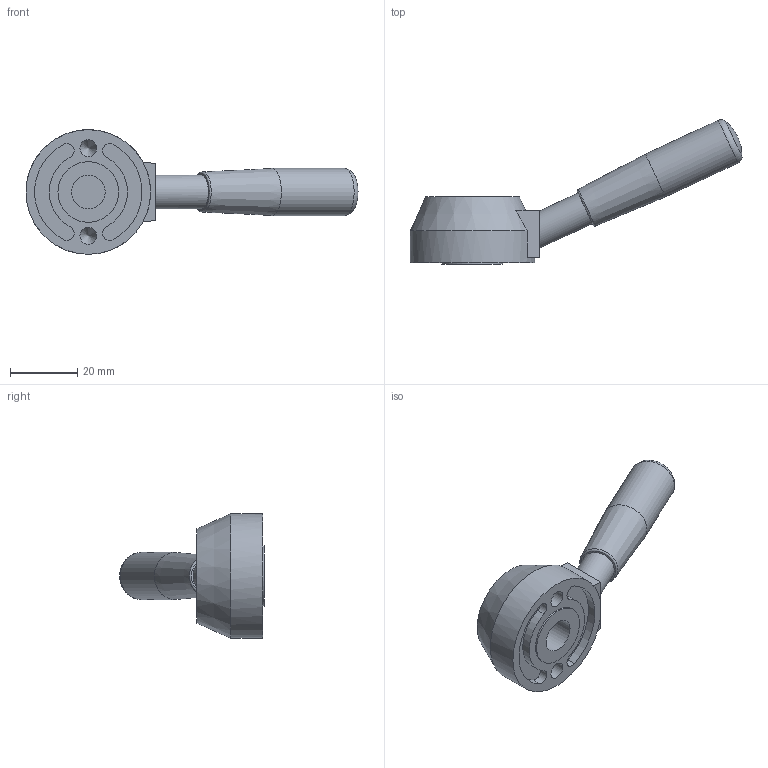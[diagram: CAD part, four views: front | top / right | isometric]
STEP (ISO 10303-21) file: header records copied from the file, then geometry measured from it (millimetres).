
FILE_DESCRIPTION( ( 'STEP AP203' ), '1' );
FILE_NAME( 'C:/Temp/Ganter_Step_05_03_2020/data/2_1/gn_512/gn_512_b/Control lever GN 512-37-B10.stp', '2020-03-05T11:51:35', ( 'License CC BY-ND 4.0' ), ( 'CADENAS' ), ' ', 'PARTsolutions', ' ' );
FILE_SCHEMA( ( 'CONFIG_CONTROL_DESIGN' ) );
Length unit declared in the file: millimetre
Products named in the file (1): _Control lever GN 512-37-B10
Bounding box: 98.59 x 42.95 x 37 mm (x, y, z)
Volume: 24819.7 mm3; surface area: 8140.4 mm2
Topology: 1 solids, 1 shells, 36 faces, 80 edges, 52 vertices
Faces by surface type: cylinder 16, plane 13, cone 4, torus 2, sphere 1
Full cylindrical faces by diameter (mm): 5 x2, 10 x2, 14 x1, 18 x1, 21 x1, 37 x1
Entity records: 930 total; most frequent: DIRECTION 168, CARTESIAN_POINT 149, ORIENTED_EDGE 116, AXIS2_PLACEMENT_3D 75, EDGE_CURVE 58, EDGE_LOOP 57, VERTEX_POINT 48, FACE_OUTER_BOUND 46
